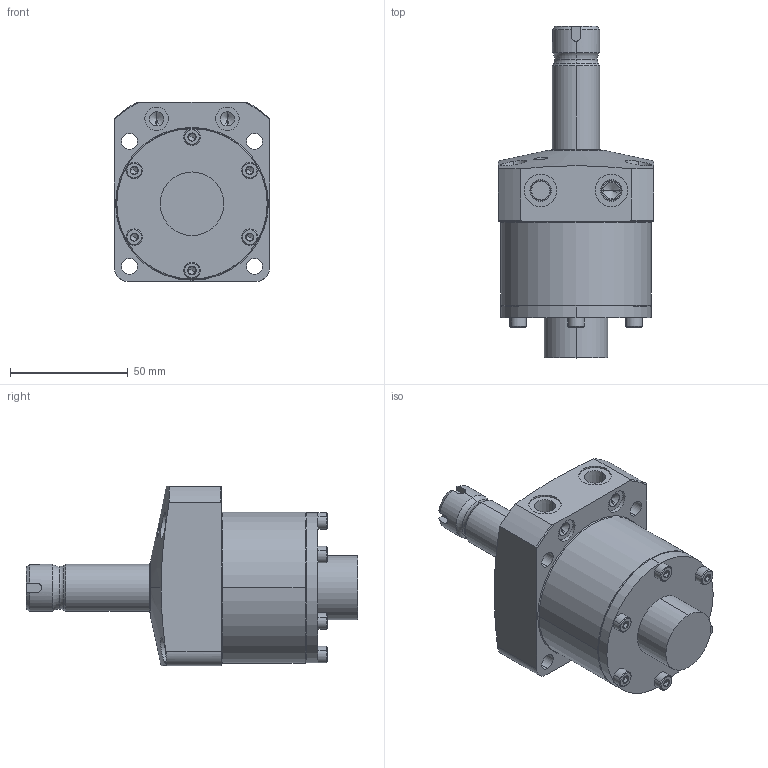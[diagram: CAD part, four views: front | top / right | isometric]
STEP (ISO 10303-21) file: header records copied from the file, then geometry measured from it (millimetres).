
FILE_DESCRIPTION (( 'STEP AP203' ), '1' );
FILE_NAME ('WHA0500-2AR-F.step', '2010-04-14T09:44:48', ( ' ' ), ( ' ' ), 'SwSTEP 2.0', 'SolidWorks 2009', '' );
FILE_SCHEMA (( 'CONFIG_CONTROL_DESIGN' ));
Length unit declared in the file: millimetre
Products named in the file (5): WHA0500_槭暌溒3WH100014-00; WHA0500-F丒郫霓; WHA0500-2AR-F; WHA0500_楓羔絻3WH100017-00; 6妏寠晅无倌_M4_10
Assembly tree (9 placements, depth 2):
  WHA0500-2AR-F
    WHA0500-F丒郫霓
    WHA0500_楓羔絻3WH100017-00
    6妏寠晅无倌_M4_10  x6
    WHA0500_槭暌溒3WH100014-00
Bounding box: 66 x 140.8 x 76 mm (x, y, z)
Volume: 290025.8 mm3; surface area: 45701 mm2
Topology: 9 solids, 9 shells, 342 faces, 686 edges, 376 vertices
Faces by surface type: plane 125, cylinder 109, cone 98, torus 10
Entity records: 6548 total; most frequent: CARTESIAN_POINT 1660, DIRECTION 959, ORIENTED_EDGE 816, EDGE_CURVE 408, AXIS2_PLACEMENT_3D 402, VERTEX_POINT 251, EDGE_LOOP 233, CIRCLE 203
